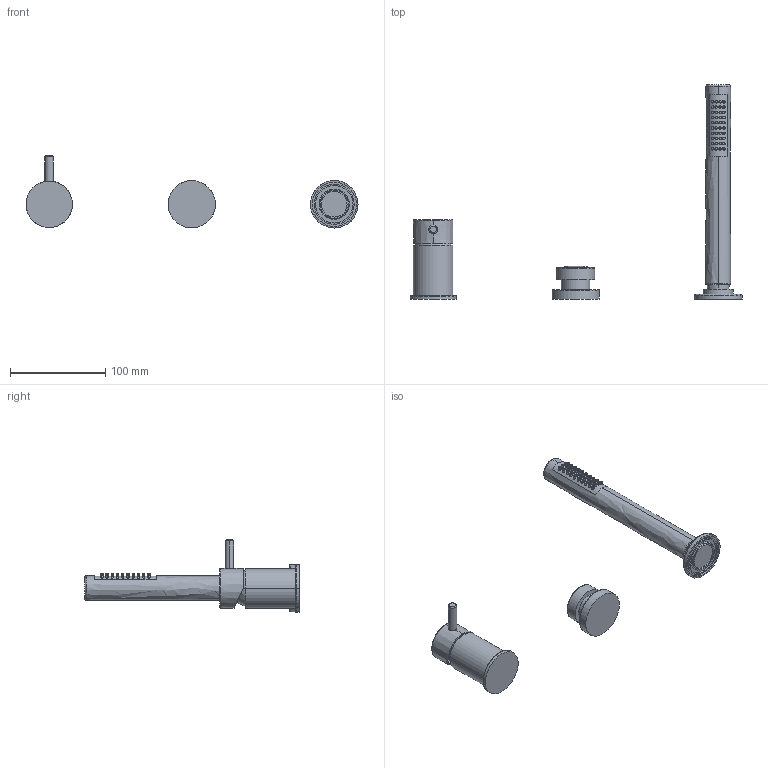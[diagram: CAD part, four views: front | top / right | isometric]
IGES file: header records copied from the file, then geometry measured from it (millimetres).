
Start section:  PTC IGES file: 12028.igs
Global section: file name: 12028.igs; native system: Creo Parametric by PTC Inc.; preprocessor: 2022014; author: carloff; organization: Unknown; date: 20250304.111929; units: millimetre
Bounding box: 349.4 x 225.5 x 75.8 mm (x, y, z)
Surface area: 57786 mm2 (no closed solid volume)
Topology: 0 solids, 0 shells, 363 faces, 1646 edges, 1642 vertices
Faces by surface type: revolution 248, bspline 115
